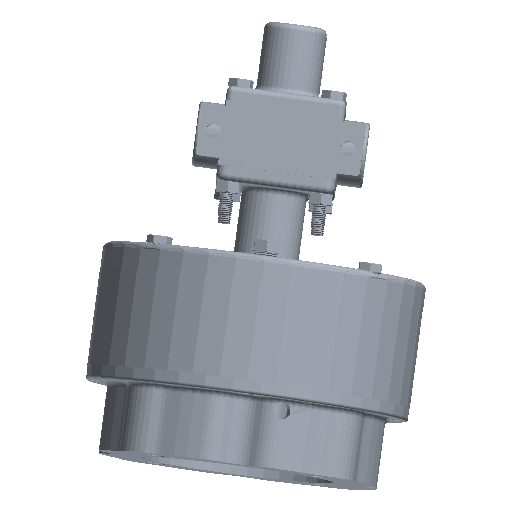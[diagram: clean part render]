
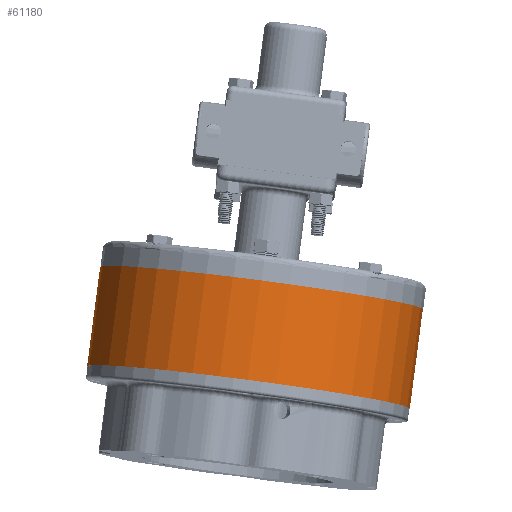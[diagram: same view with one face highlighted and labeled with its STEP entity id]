
A CAD part, front view. The second image highlights one B-rep face of the part: STEP entity #61180.
In plain terms, the highlighted cylindrical face has radius 79.756 mm (diameter 159.512 mm), a partial arc.
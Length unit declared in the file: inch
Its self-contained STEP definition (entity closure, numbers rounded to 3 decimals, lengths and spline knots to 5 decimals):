
#2187 = EDGE_CURVE ( 'NONE', #125934, #49734, #81912, .T. ) ;
#15744 = EDGE_LOOP ( 'NONE', ( #86064, #108237, #129640, #146529 ) ) ;
#15814 = EDGE_CURVE ( 'NONE', #25686, #73088, #64057, .T. ) ;
#18906 = CARTESIAN_POINT ( 'NONE',  ( -5.94182, 99.17258, 28.721 ) ) ;
#25686 = VERTEX_POINT ( 'NONE', #52862 ) ;
#26209 = CIRCLE ( 'NONE', #55655, 3.14 ) ;
#31099 = VECTOR ( 'NONE', #47507, 39.37008 ) ;
#40362 = DIRECTION ( 'NONE',  ( -0.13, -0.046, -0.99 ) ) ;
#47507 = DIRECTION ( 'NONE',  ( -0.13, -0.046, -0.99 ) ) ;
#49734 = VERTEX_POINT ( 'NONE', #135938 ) ;
#52862 = CARTESIAN_POINT ( 'NONE',  ( -5.94182, 99.17258, 28.721 ) ) ;
#54794 = CARTESIAN_POINT ( 'NONE',  ( 0.28502, 99.10916, 27.90808 ) ) ;
#55655 = AXIS2_PLACEMENT_3D ( 'NONE', #143257, #120338, #144768 ) ;
#55877 = CIRCLE ( 'NONE', #109271, 3.14 ) ;
#58642 = CARTESIAN_POINT ( 'NONE',  ( -6.1932, 99.08317, 26.80246 ) ) ;
#61180 = ADVANCED_FACE ( 'NONE', ( #127206 ), #62655, .T. ) ;
#62655 = CYLINDRICAL_SURFACE ( 'NONE', #98940, 3.14 ) ;
#64057 = LINE ( 'NONE', #18906, #135915 ) ;
#70571 = DIRECTION ( 'NONE',  ( -0.13, -0.046, -0.99 ) ) ;
#73088 = VERTEX_POINT ( 'NONE', #58642 ) ;
#81912 = LINE ( 'NONE', #143016, #31099 ) ;
#84927 = CARTESIAN_POINT ( 'NONE',  ( -2.8284, 99.14087, 28.31454 ) ) ;
#86064 = ORIENTED_EDGE ( 'NONE', *, *, #2187, .F. ) ;
#98940 = AXIS2_PLACEMENT_3D ( 'NONE', #150921, #70571, #118755 ) ;
#107175 = DIRECTION ( 'NONE',  ( 0.13, 0.046, 0.99 ) ) ;
#108237 = ORIENTED_EDGE ( 'NONE', *, *, #117853, .F. ) ;
#109271 = AXIS2_PLACEMENT_3D ( 'NONE', #84927, #107175, #117889 ) ;
#117853 = EDGE_CURVE ( 'NONE', #25686, #125934, #55877, .T. ) ;
#117889 = DIRECTION ( 'NONE',  ( 0.992, -0.01, -0.129 ) ) ;
#118755 = DIRECTION ( 'NONE',  ( -0.992, 0.01, 0.129 ) ) ;
#120338 = DIRECTION ( 'NONE',  ( 0.13, 0.046, 0.99 ) ) ;
#125934 = VERTEX_POINT ( 'NONE', #54794 ) ;
#127206 = FACE_OUTER_BOUND ( 'NONE', #15744, .T. ) ;
#129640 = ORIENTED_EDGE ( 'NONE', *, *, #15814, .T. ) ;
#135915 = VECTOR ( 'NONE', #40362, 39.37008 ) ;
#135938 = CARTESIAN_POINT ( 'NONE',  ( 0.03364, 99.01975, 25.98955 ) ) ;
#143016 = CARTESIAN_POINT ( 'NONE',  ( 0.28502, 99.10916, 27.90808 ) ) ;
#143257 = CARTESIAN_POINT ( 'NONE',  ( -3.07978, 99.05146, 26.396 ) ) ;
#144768 = DIRECTION ( 'NONE',  ( 0.992, -0.01, -0.129 ) ) ;
#144836 = EDGE_CURVE ( 'NONE', #73088, #49734, #26209, .T. ) ;
#146529 = ORIENTED_EDGE ( 'NONE', *, *, #144836, .T. ) ;
#150921 = CARTESIAN_POINT ( 'NONE',  ( -2.8284, 99.14087, 28.31454 ) ) ;
